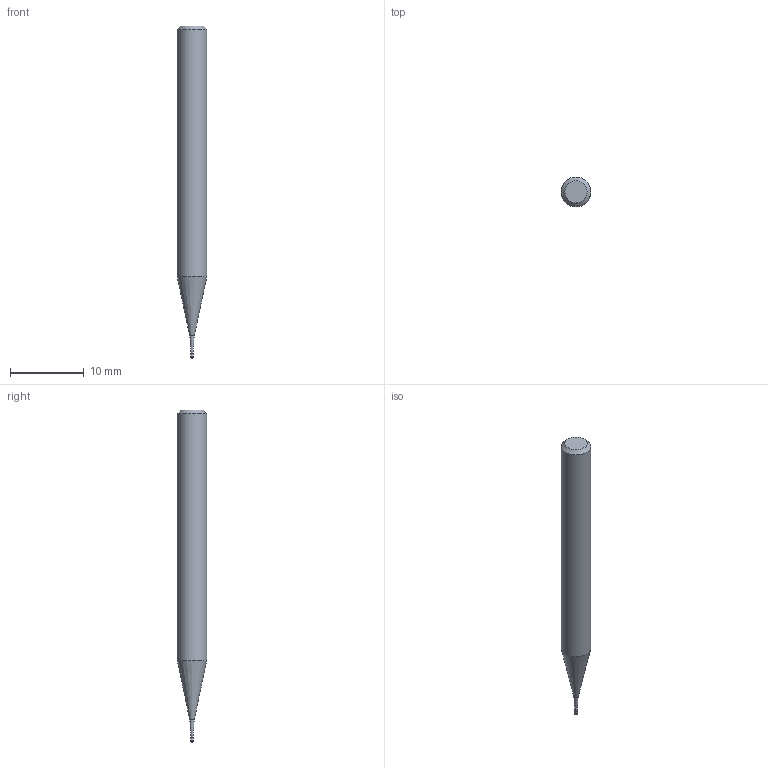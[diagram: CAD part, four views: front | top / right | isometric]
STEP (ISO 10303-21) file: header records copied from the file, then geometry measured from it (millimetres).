
FILE_DESCRIPTION((''),'2;1');
FILE_NAME('C:\Users\nsx150\AppData\Local\Temp\Mastercam 2021\YKS1SUSFZB\TEMP.step','2025-06-23T14:03:21',(''),(''),'STEP Write','Mastercam 2021 ... CNC Software, Inc.','');
FILE_SCHEMA(('AUTOMOTIVE_DESIGN'));
Length unit declared in the file: millimetre
Products named in the file (1): None
Bounding box: 4 x 4 x 45 mm (x, y, z)
Volume: 465.5 mm3; surface area: 499 mm2
Topology: 2 solids, 2 shells, 11 faces, 16 edges, 9 vertices
Faces by surface type: plane 4, cylinder 3, cone 3, torus 1
Full cylindrical faces by diameter (mm): 0.285 x1, 0.3 x1, 4 x1
Entity records: 253 total; most frequent: DIRECTION 44, CARTESIAN_POINT 31, AXIS2_PLACEMENT_3D 22, ORIENTED_EDGE 18, EDGE_LOOP 18, STYLED_ITEM 14, ADVANCED_FACE 11, FACE_BOUND 11
